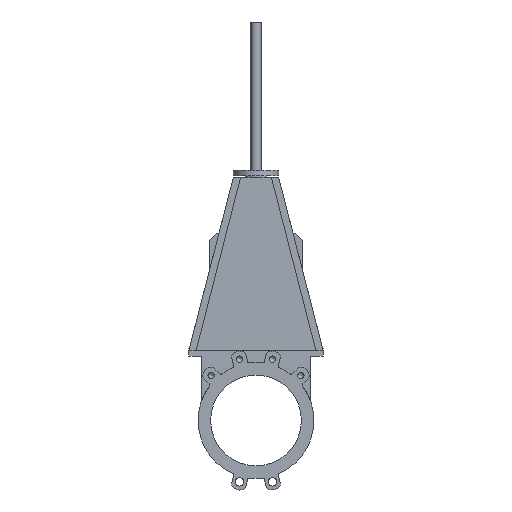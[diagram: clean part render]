
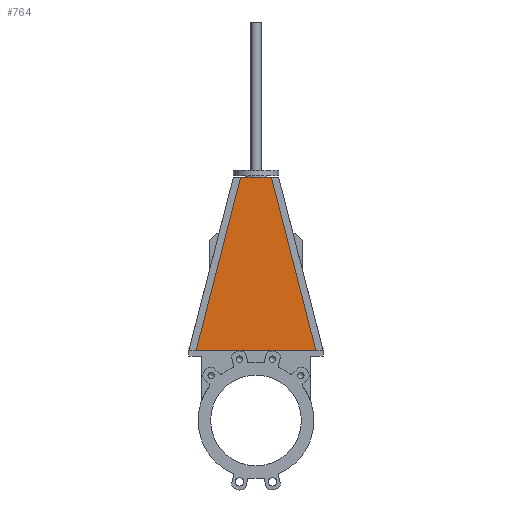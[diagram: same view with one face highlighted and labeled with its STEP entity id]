
A CAD part, front view. The second image highlights one B-rep face of the part: STEP entity #764.
In plain terms, the highlighted planar face has unit normal (0, -1, 0.017).
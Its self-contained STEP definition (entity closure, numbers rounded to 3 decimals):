
#764=ADVANCED_FACE('',(#2329),#2331,.F.);
#2329=FACE_BOUND('',#2330,.T.);
#2330=EDGE_LOOP('',(#3649,#3650,#3651,#3652,#3653,#3654));
#2331=PLANE('',#2332);
#2332=AXIS2_PLACEMENT_3D('',#2333,#2334,#2335);
#2333=CARTESIAN_POINT('',(165.,-31.,192.5));
#2334=DIRECTION('',(0.,1.,-0.017));
#2335=DIRECTION('',(-1.,0.,0.));
#3649=ORIENTED_EDGE('',*,*,#4318,.F.);
#3650=ORIENTED_EDGE('',*,*,#4317,.T.);
#3651=ORIENTED_EDGE('',*,*,#4447,.F.);
#3652=ORIENTED_EDGE('',*,*,#4449,.F.);
#3653=ORIENTED_EDGE('',*,*,#4450,.T.);
#3654=ORIENTED_EDGE('',*,*,#4324,.T.);
#4317=EDGE_CURVE('',#4804,#4914,#4916,.T.);
#4318=EDGE_CURVE('',#4804,#4808,#4917,.F.);
#4324=EDGE_CURVE('',#4928,#4808,#4929,.T.);
#4447=EDGE_CURVE('',#5131,#4914,#5132,.T.);
#4449=EDGE_CURVE('',#5134,#5131,#5135,.T.);
#4450=EDGE_CURVE('',#5134,#4928,#5136,.T.);
#4804=VERTEX_POINT('',#5806);
#4808=VERTEX_POINT('',#5816);
#4914=VERTEX_POINT('',#6063);
#4916=LINE('',#6067,#6068);
#4917=LINE('',#6070,#6071);
#4928=VERTEX_POINT('',#6098);
#4929=LINE('',#6099,#6100);
#5131=VERTEX_POINT('',#6575);
#5132=LINE('',#6576,#6577);
#5134=VERTEX_POINT('',#6582);
#5135=LINE('',#6583,#6584);
#5136=LINE('',#6586,#6587);
#5806=CARTESIAN_POINT('',(-19.261,-23.,670.));
#5816=CARTESIAN_POINT('',(19.261,-23.,670.));
#6063=CARTESIAN_POINT('',(-42.5,-23.,670.));
#6067=CARTESIAN_POINT('',(-19.261,-23.,670.));
#6068=VECTOR('',#6069,1.);
#6069=DIRECTION('',(-1.,0.,0.));
#6070=CARTESIAN_POINT('',(19.261,-23.,670.));
#6071=VECTOR('',#6072,1.);
#6072=DIRECTION('',(-1.,0.,0.));
#6098=CARTESIAN_POINT('',(42.5,-23.,670.));
#6099=CARTESIAN_POINT('',(42.5,-23.,670.));
#6100=VECTOR('',#6101,1.);
#6101=DIRECTION('',(-1.,0.,0.));
#6575=CARTESIAN_POINT('',(-165.,-31.,192.5));
#6576=CARTESIAN_POINT('',(-165.,-31.,192.5));
#6577=VECTOR('',#6578,1.);
#6578=DIRECTION('',(0.248,0.016,0.969));
#6582=CARTESIAN_POINT('',(165.,-31.,192.5));
#6583=CARTESIAN_POINT('',(165.,-31.,192.5));
#6584=VECTOR('',#6585,1.);
#6585=DIRECTION('',(-1.,0.,0.));
#6586=CARTESIAN_POINT('',(165.,-31.,192.5));
#6587=VECTOR('',#6588,1.);
#6588=DIRECTION('',(-0.248,0.016,0.969));
